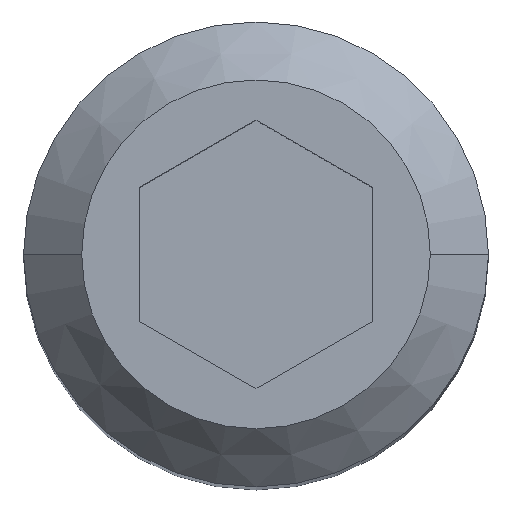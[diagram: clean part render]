
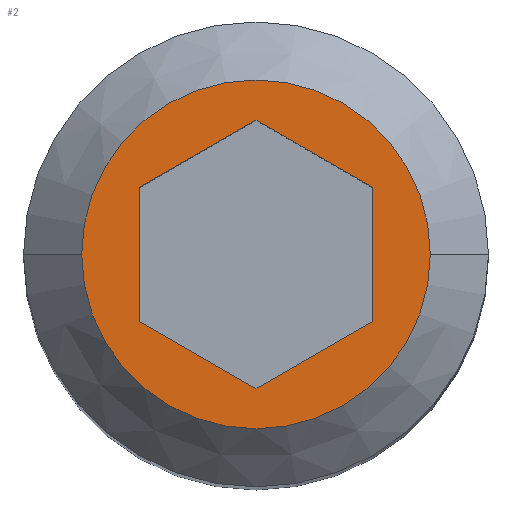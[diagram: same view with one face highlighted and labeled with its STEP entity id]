
A CAD part, top view. The second image highlights one B-rep face of the part: STEP entity #2.
In plain terms, the highlighted planar face has unit normal (0, 0, 1).
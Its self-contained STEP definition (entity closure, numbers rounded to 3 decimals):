
#2 = ADVANCED_FACE ( 'NONE', ( #304, #100 ), #449, .T. ) ;
#22 = CIRCLE ( 'NONE', #573, 4.5 ) ;
#37 = DIRECTION ( 'NONE',  ( 0.866, -0.5, 0. ) ) ;
#47 = VERTEX_POINT ( 'NONE', #278 ) ;
#48 = CARTESIAN_POINT ( 'NONE',  ( 3., -1.732, 52.1 ) ) ;
#58 = EDGE_CURVE ( 'NONE', #47, #134, #22, .T. ) ;
#65 = ORIENTED_EDGE ( 'NONE', *, *, #405, .F. ) ;
#98 = AXIS2_PLACEMENT_3D ( 'NONE', #235, #146, #608 ) ;
#100 = FACE_OUTER_BOUND ( 'NONE', #124, .T. ) ;
#114 = ORIENTED_EDGE ( 'NONE', *, *, #58, .T. ) ;
#124 = EDGE_LOOP ( 'NONE', ( #114, #431 ) ) ;
#134 = VERTEX_POINT ( 'NONE', #379 ) ;
#135 = CARTESIAN_POINT ( 'NONE',  ( 3., 1.732, 52.1 ) ) ;
#141 = DIRECTION ( 'NONE',  ( 0.866, 0.5, 0. ) ) ;
#146 = DIRECTION ( 'NONE',  ( 0., 0., 1. ) ) ;
#151 = LINE ( 'NONE', #597, #646 ) ;
#153 = VECTOR ( 'NONE', #248, 1000. ) ;
#161 = LINE ( 'NONE', #205, #314 ) ;
#163 = CARTESIAN_POINT ( 'NONE',  ( 3., -1.732, 52.1 ) ) ;
#176 = EDGE_CURVE ( 'NONE', #387, #215, #377, .T. ) ;
#178 = VECTOR ( 'NONE', #432, 1000. ) ;
#182 = AXIS2_PLACEMENT_3D ( 'NONE', #660, #210, #250 ) ;
#189 = CARTESIAN_POINT ( 'NONE',  ( -3., -1.732, 52.1 ) ) ;
#191 = LINE ( 'NONE', #48, #153 ) ;
#205 = CARTESIAN_POINT ( 'NONE',  ( 0., 3.464, 52.1 ) ) ;
#210 = DIRECTION ( 'NONE',  ( 0., 0., 1. ) ) ;
#215 = VERTEX_POINT ( 'NONE', #329 ) ;
#220 = CARTESIAN_POINT ( 'NONE',  ( 0., 0., 52.1 ) ) ;
#228 = DIRECTION ( 'NONE',  ( 0., 0., 1. ) ) ;
#235 = CARTESIAN_POINT ( 'NONE',  ( 0., 0., 52.1 ) ) ;
#236 = VERTEX_POINT ( 'NONE', #539 ) ;
#248 = DIRECTION ( 'NONE',  ( 0., 1., 0. ) ) ;
#250 = DIRECTION ( 'NONE',  ( 1., 0., 0. ) ) ;
#253 = ORIENTED_EDGE ( 'NONE', *, *, #550, .F. ) ;
#254 = CARTESIAN_POINT ( 'NONE',  ( 3., 1.732, 52.1 ) ) ;
#261 = VECTOR ( 'NONE', #596, 1000. ) ;
#278 = CARTESIAN_POINT ( 'NONE',  ( -4.5, 0., 52.1 ) ) ;
#296 = EDGE_CURVE ( 'NONE', #215, #631, #161, .T. ) ;
#299 = VECTOR ( 'NONE', #37, 1000. ) ;
#304 = FACE_BOUND ( 'NONE', #319, .T. ) ;
#312 = ORIENTED_EDGE ( 'NONE', *, *, #296, .F. ) ;
#314 = VECTOR ( 'NONE', #607, 1000. ) ;
#319 = EDGE_LOOP ( 'NONE', ( #253, #65, #312, #460, #341, #416 ) ) ;
#329 = CARTESIAN_POINT ( 'NONE',  ( 0., 3.464, 52.1 ) ) ;
#340 = LINE ( 'NONE', #490, #299 ) ;
#341 = ORIENTED_EDGE ( 'NONE', *, *, #429, .F. ) ;
#365 = VERTEX_POINT ( 'NONE', #163 ) ;
#377 = LINE ( 'NONE', #135, #261 ) ;
#379 = CARTESIAN_POINT ( 'NONE',  ( 4.5, 0., 52.1 ) ) ;
#387 = VERTEX_POINT ( 'NONE', #254 ) ;
#405 = EDGE_CURVE ( 'NONE', #631, #593, #440, .T. ) ;
#415 = CARTESIAN_POINT ( 'NONE',  ( -3., 1.732, 52.1 ) ) ;
#416 = ORIENTED_EDGE ( 'NONE', *, *, #519, .F. ) ;
#429 = EDGE_CURVE ( 'NONE', #365, #387, #191, .T. ) ;
#431 = ORIENTED_EDGE ( 'NONE', *, *, #606, .T. ) ;
#432 = DIRECTION ( 'NONE',  ( 0., -1., 0. ) ) ;
#440 = LINE ( 'NONE', #504, #178 ) ;
#449 = PLANE ( 'NONE',  #182 ) ;
#460 = ORIENTED_EDGE ( 'NONE', *, *, #176, .F. ) ;
#490 = CARTESIAN_POINT ( 'NONE',  ( -3., -1.732, 52.1 ) ) ;
#504 = CARTESIAN_POINT ( 'NONE',  ( -3., 1.732, 52.1 ) ) ;
#519 = EDGE_CURVE ( 'NONE', #236, #365, #151, .T. ) ;
#520 = DIRECTION ( 'NONE',  ( 1., 0., 0. ) ) ;
#539 = CARTESIAN_POINT ( 'NONE',  ( 0., -3.464, 52.1 ) ) ;
#550 = EDGE_CURVE ( 'NONE', #593, #236, #340, .T. ) ;
#552 = CIRCLE ( 'NONE', #98, 4.5 ) ;
#573 = AXIS2_PLACEMENT_3D ( 'NONE', #220, #228, #520 ) ;
#593 = VERTEX_POINT ( 'NONE', #189 ) ;
#596 = DIRECTION ( 'NONE',  ( -0.866, 0.5, 0. ) ) ;
#597 = CARTESIAN_POINT ( 'NONE',  ( 0., -3.464, 52.1 ) ) ;
#606 = EDGE_CURVE ( 'NONE', #134, #47, #552, .T. ) ;
#607 = DIRECTION ( 'NONE',  ( -0.866, -0.5, 0. ) ) ;
#608 = DIRECTION ( 'NONE',  ( 1., 0., 0. ) ) ;
#631 = VERTEX_POINT ( 'NONE', #415 ) ;
#646 = VECTOR ( 'NONE', #141, 1000. ) ;
#660 = CARTESIAN_POINT ( 'NONE',  ( 0., -4.5, 52.1 ) ) ;
